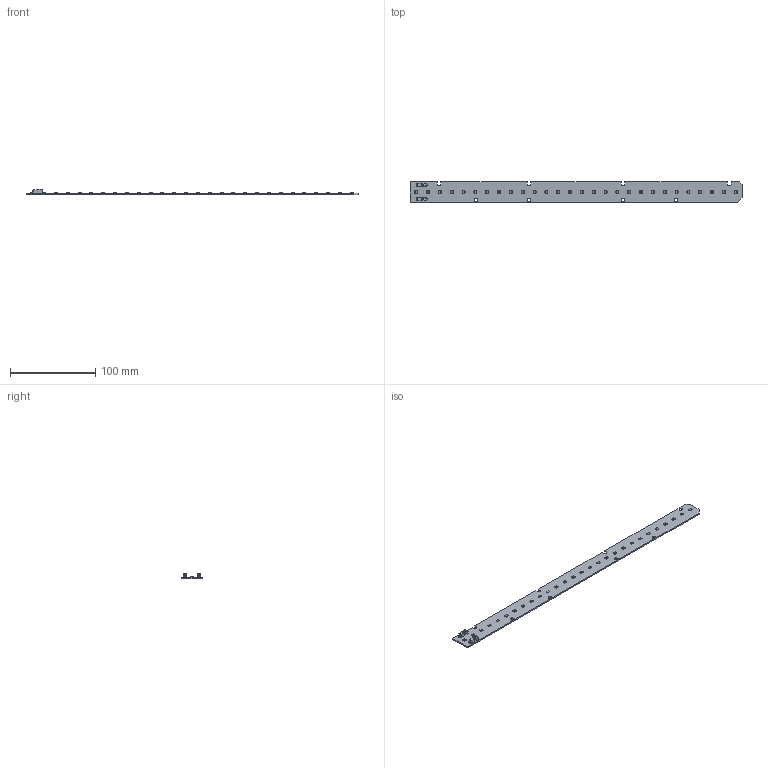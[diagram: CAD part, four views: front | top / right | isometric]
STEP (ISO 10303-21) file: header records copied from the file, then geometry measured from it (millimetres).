
FILE_DESCRIPTION (( 'STEP AP203' ), '1' );
FILE_NAME ('led_module LZ390.STEP', '2018-02-19T07:01:49', ( '' ), ( '' ), 'SwSTEP 2.0', 'SolidWorks 2014', '' );
FILE_SCHEMA (( 'CONFIG_CONTROL_DESIGN' ));
Length unit declared in the file: millimetre
Products named in the file (4): 75836B; 7800175; LM28xB Series_zippi_pieni; led_module LZ390
Assembly tree (31 placements, depth 2):
  led_module LZ390
    75836B
    7800175  x2
    LM28xB Series_zippi_pieni  x28
Bounding box: 390 x 24 x 5.95 mm (x, y, z)
Volume: 15184.8 mm3; surface area: 21274.2 mm2
Topology: 31 solids, 31 shells, 1770 faces, 5186 edges, 3512 vertices
Faces by surface type: plane 1194, cylinder 574, bspline 2
Entity records: 7576 total; most frequent: CARTESIAN_POINT 1524, ORIENTED_EDGE 1064, DIRECTION 956, EDGE_CURVE 532, LINE 364, VECTOR 364, VERTEX_POINT 356, AXIS2_PLACEMENT_3D 296
